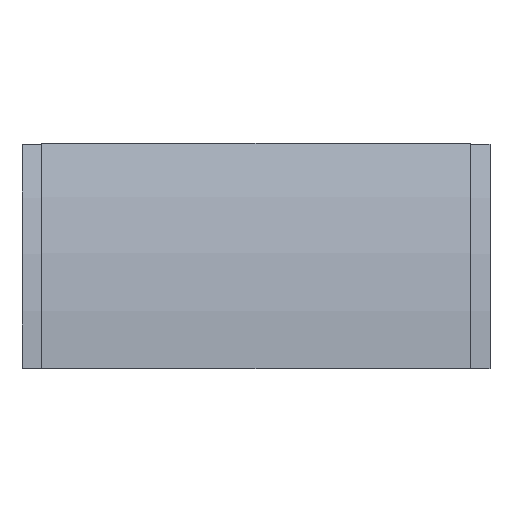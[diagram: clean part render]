
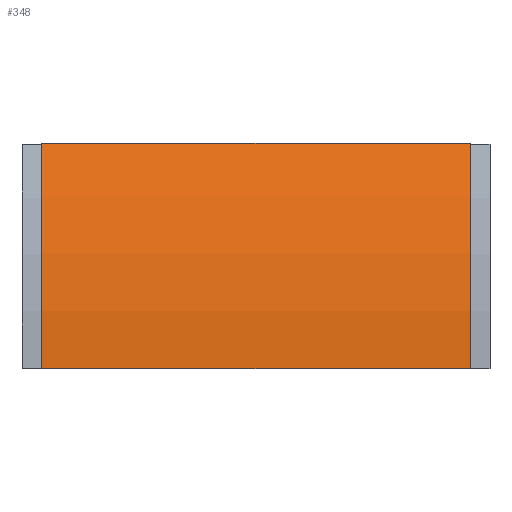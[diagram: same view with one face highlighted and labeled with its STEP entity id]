
A CAD part, front view. The second image highlights one B-rep face of the part: STEP entity #348.
In plain terms, the highlighted cylindrical face has radius 568 mm (diameter 1136 mm), a partial arc.
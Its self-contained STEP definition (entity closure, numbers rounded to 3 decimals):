
#84 = DIRECTION ( 'NONE',  ( 1., 0., 0. ) ) ;
#86 = CARTESIAN_POINT ( 'NONE',  ( -228.5, -68., 0. ) ) ;
#91 = DIRECTION ( 'NONE',  ( 0., 0., -1. ) ) ;
#94 = DIRECTION ( 'NONE',  ( 1., 0., 0. ) ) ;
#95 = CARTESIAN_POINT ( 'NONE',  ( 228.5, 500., 0. ) ) ;
#96 = CARTESIAN_POINT ( 'NONE',  ( -228.5, -14.783, 240.047 ) ) ;
#120 = DIRECTION ( 'NONE',  ( 0., 0., -1. ) ) ;
#123 = DIRECTION ( 'NONE',  ( 1., 0., 0. ) ) ;
#124 = CARTESIAN_POINT ( 'NONE',  ( -228.5, 500., 0. ) ) ;
#132 = DIRECTION ( 'NONE',  ( 1., 0., 0. ) ) ;
#258 = DIRECTION ( 'NONE',  ( 1., 0., 0. ) ) ;
#262 = CARTESIAN_POINT ( 'NONE',  ( 0., 500., 0. ) ) ;
#263 = CARTESIAN_POINT ( 'NONE',  ( -228.5, -14.783, 240.047 ) ) ;
#268 = CARTESIAN_POINT ( 'NONE',  ( 228.5, -14.783, 240.047 ) ) ;
#277 = CARTESIAN_POINT ( 'NONE',  ( -228.5, -68., 0. ) ) ;
#284 = CARTESIAN_POINT ( 'NONE',  ( 228.5, -68., 0. ) ) ;
#298 = DIRECTION ( 'NONE',  ( 0., 0., -1. ) ) ;
#348 = ADVANCED_FACE ( 'NONE', ( #676 ), #685, .T. ) ;
#386 = EDGE_LOOP ( 'NONE', ( #488, #487, #486, #485 ) ) ;
#485 = ORIENTED_EDGE ( 'NONE', *, *, #890, .T. ) ;
#486 = ORIENTED_EDGE ( 'NONE', *, *, #883, .T. ) ;
#487 = ORIENTED_EDGE ( 'NONE', *, *, #889, .F. ) ;
#488 = ORIENTED_EDGE ( 'NONE', *, *, #888, .F. ) ;
#629 = VERTEX_POINT ( 'NONE', #277 ) ;
#631 = VERTEX_POINT ( 'NONE', #284 ) ;
#639 = VERTEX_POINT ( 'NONE', #263 ) ;
#640 = VERTEX_POINT ( 'NONE', #268 ) ;
#676 = FACE_OUTER_BOUND ( 'NONE', #386, .T. ) ;
#685 = CYLINDRICAL_SURFACE ( 'NONE', #953, 568. ) ;
#755 = CIRCLE ( 'NONE', #985, 568. ) ;
#757 = LINE ( 'NONE', #96, #768 ) ;
#764 = CIRCLE ( 'NONE', #986, 568. ) ;
#767 = LINE ( 'NONE', #86, #770 ) ;
#768 = VECTOR ( 'NONE', #132, 1000. ) ;
#770 = VECTOR ( 'NONE', #84, 1000. ) ;
#883 = EDGE_CURVE ( 'NONE', #639, #629, #755, .T. ) ;
#888 = EDGE_CURVE ( 'NONE', #640, #631, #764, .T. ) ;
#889 = EDGE_CURVE ( 'NONE', #639, #640, #757, .T. ) ;
#890 = EDGE_CURVE ( 'NONE', #629, #631, #767, .T. ) ;
#953 = AXIS2_PLACEMENT_3D ( 'NONE', #262, #258, #298 ) ;
#985 = AXIS2_PLACEMENT_3D ( 'NONE', #124, #123, #120 ) ;
#986 = AXIS2_PLACEMENT_3D ( 'NONE', #95, #94, #91 ) ;
